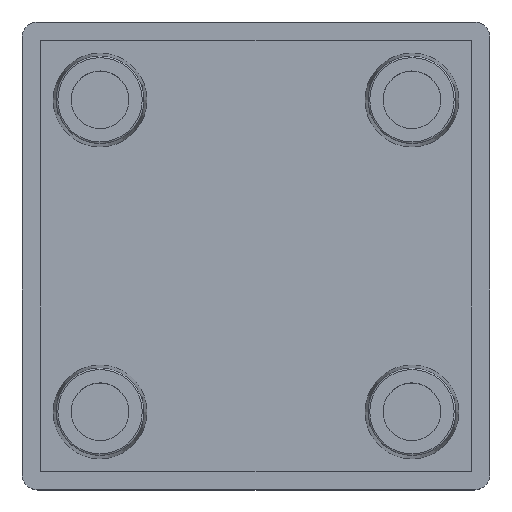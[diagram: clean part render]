
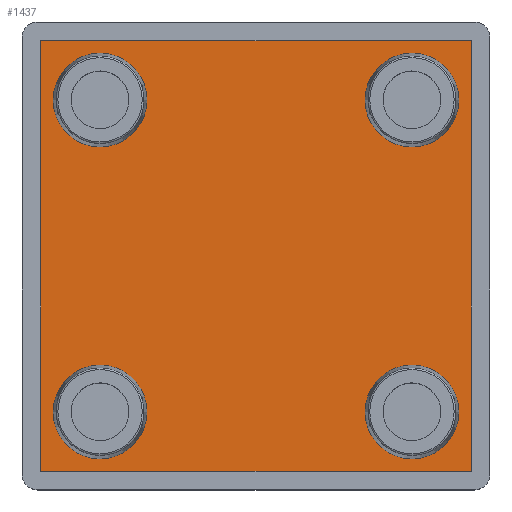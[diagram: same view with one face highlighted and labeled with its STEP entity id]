
A CAD part, top view. The second image highlights one B-rep face of the part: STEP entity #1437.
In plain terms, the highlighted planar face has unit normal (0, 0, 1).
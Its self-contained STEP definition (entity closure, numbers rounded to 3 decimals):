
#15 = EDGE_CURVE ( 'NONE', #525, #266, #763, .T. ) ;
#74 = DIRECTION ( 'NONE',  ( 1., 0., 0. ) ) ;
#77 = CARTESIAN_POINT ( 'NONE',  ( 10., 10., 2. ) ) ;
#87 = DIRECTION ( 'NONE',  ( 0., 0., 1. ) ) ;
#134 = LINE ( 'NONE', #873, #1156 ) ;
#135 = FACE_BOUND ( 'NONE', #1035, .T. ) ;
#136 = EDGE_CURVE ( 'NONE', #1329, #907, #1611, .T. ) ;
#151 = VECTOR ( 'NONE', #1438, 1000. ) ;
#157 = DIRECTION ( 'NONE',  ( 0., 1., 0. ) ) ;
#161 = EDGE_LOOP ( 'NONE', ( #1420, #621 ) ) ;
#175 = VERTEX_POINT ( 'NONE', #287 ) ;
#198 = CARTESIAN_POINT ( 'NONE',  ( -13., 10., 2. ) ) ;
#200 = ORIENTED_EDGE ( 'NONE', *, *, #1183, .T. ) ;
#217 = VECTOR ( 'NONE', #74, 1000. ) ;
#245 = CARTESIAN_POINT ( 'NONE',  ( 10., 10., 2. ) ) ;
#266 = VERTEX_POINT ( 'NONE', #328 ) ;
#267 = ORIENTED_EDGE ( 'NONE', *, *, #1409, .F. ) ;
#287 = CARTESIAN_POINT ( 'NONE',  ( -7., -10., 2. ) ) ;
#289 = CIRCLE ( 'NONE', #1476, 3. ) ;
#307 = AXIS2_PLACEMENT_3D ( 'NONE', #1241, #442, #1379 ) ;
#328 = CARTESIAN_POINT ( 'NONE',  ( 7., 10., 2. ) ) ;
#330 = CIRCLE ( 'NONE', #928, 3. ) ;
#338 = CARTESIAN_POINT ( 'NONE',  ( 10., -10., 2. ) ) ;
#351 = VERTEX_POINT ( 'NONE', #1423 ) ;
#362 = CIRCLE ( 'NONE', #392, 3. ) ;
#365 = CIRCLE ( 'NONE', #1639, 3. ) ;
#368 = ORIENTED_EDGE ( 'NONE', *, *, #824, .F. ) ;
#382 = DIRECTION ( 'NONE',  ( -1., 0., 0. ) ) ;
#392 = AXIS2_PLACEMENT_3D ( 'NONE', #629, #1435, #505 ) ;
#416 = CARTESIAN_POINT ( 'NONE',  ( 10., -10., 2. ) ) ;
#424 = EDGE_CURVE ( 'NONE', #907, #1148, #134, .T. ) ;
#427 = ORIENTED_EDGE ( 'NONE', *, *, #136, .T. ) ;
#440 = FACE_OUTER_BOUND ( 'NONE', #1094, .T. ) ;
#441 = AXIS2_PLACEMENT_3D ( 'NONE', #77, #867, #1675 ) ;
#442 = DIRECTION ( 'NONE',  ( 0., 0., 1. ) ) ;
#465 = CARTESIAN_POINT ( 'NONE',  ( 13.8, -13.8, 2. ) ) ;
#475 = DIRECTION ( 'NONE',  ( -1., 0., 0. ) ) ;
#488 = EDGE_CURVE ( 'NONE', #1149, #175, #362, .T. ) ;
#505 = DIRECTION ( 'NONE',  ( -1., 0., 0. ) ) ;
#509 = CARTESIAN_POINT ( 'NONE',  ( -13.8, -13.8, 2. ) ) ;
#520 = LINE ( 'NONE', #509, #151 ) ;
#525 = VERTEX_POINT ( 'NONE', #1298 ) ;
#547 = DIRECTION ( 'NONE',  ( -1., 0., 0. ) ) ;
#548 = CARTESIAN_POINT ( 'NONE',  ( 13.8, -13.8, 2. ) ) ;
#611 = CARTESIAN_POINT ( 'NONE',  ( -10., 10., 2. ) ) ;
#621 = ORIENTED_EDGE ( 'NONE', *, *, #667, .F. ) ;
#629 = CARTESIAN_POINT ( 'NONE',  ( -10., -10., 2. ) ) ;
#655 = LINE ( 'NONE', #861, #217 ) ;
#659 = AXIS2_PLACEMENT_3D ( 'NONE', #611, #1553, #748 ) ;
#667 = EDGE_CURVE ( 'NONE', #175, #1149, #1478, .T. ) ;
#677 = EDGE_LOOP ( 'NONE', ( #1204, #1422 ) ) ;
#748 = DIRECTION ( 'NONE',  ( -1., 0., 0. ) ) ;
#756 = DIRECTION ( 'NONE',  ( -1., 0., 0. ) ) ;
#762 = CARTESIAN_POINT ( 'NONE',  ( 13.8, 13.8, 2. ) ) ;
#763 = CIRCLE ( 'NONE', #441, 3. ) ;
#783 = EDGE_CURVE ( 'NONE', #1140, #964, #330, .T. ) ;
#787 = VERTEX_POINT ( 'NONE', #198 ) ;
#803 = VERTEX_POINT ( 'NONE', #866 ) ;
#824 = EDGE_CURVE ( 'NONE', #787, #351, #289, .T. ) ;
#861 = CARTESIAN_POINT ( 'NONE',  ( -13.8, -13.8, 2. ) ) ;
#865 = DIRECTION ( 'NONE',  ( -1., 0., 0. ) ) ;
#866 = CARTESIAN_POINT ( 'NONE',  ( -13.8, -13.8, 2. ) ) ;
#867 = DIRECTION ( 'NONE',  ( 0., 0., 1. ) ) ;
#873 = CARTESIAN_POINT ( 'NONE',  ( -13.8, 13.8, 2. ) ) ;
#874 = CARTESIAN_POINT ( 'NONE',  ( -10., 10., 2. ) ) ;
#877 = CARTESIAN_POINT ( 'NONE',  ( -13., -10., 2. ) ) ;
#907 = VERTEX_POINT ( 'NONE', #762 ) ;
#917 = FACE_BOUND ( 'NONE', #161, .T. ) ;
#918 = EDGE_LOOP ( 'NONE', ( #1173, #1013 ) ) ;
#928 = AXIS2_PLACEMENT_3D ( 'NONE', #338, #1265, #475 ) ;
#964 = VERTEX_POINT ( 'NONE', #1238 ) ;
#1007 = DIRECTION ( 'NONE',  ( -1., 0., 0. ) ) ;
#1013 = ORIENTED_EDGE ( 'NONE', *, *, #1646, .F. ) ;
#1035 = EDGE_LOOP ( 'NONE', ( #368, #267 ) ) ;
#1094 = EDGE_LOOP ( 'NONE', ( #427, #1633, #200, #1216 ) ) ;
#1140 = VERTEX_POINT ( 'NONE', #1426 ) ;
#1148 = VERTEX_POINT ( 'NONE', #1692 ) ;
#1149 = VERTEX_POINT ( 'NONE', #877 ) ;
#1156 = VECTOR ( 'NONE', #865, 1000. ) ;
#1161 = FACE_BOUND ( 'NONE', #918, .T. ) ;
#1172 = AXIS2_PLACEMENT_3D ( 'NONE', #416, #1347, #547 ) ;
#1173 = ORIENTED_EDGE ( 'NONE', *, *, #783, .F. ) ;
#1177 = DIRECTION ( 'NONE',  ( 0., 0., 1. ) ) ;
#1183 = EDGE_CURVE ( 'NONE', #1148, #803, #520, .T. ) ;
#1199 = CIRCLE ( 'NONE', #659, 3. ) ;
#1204 = ORIENTED_EDGE ( 'NONE', *, *, #1491, .F. ) ;
#1216 = ORIENTED_EDGE ( 'NONE', *, *, #1381, .T. ) ;
#1238 = CARTESIAN_POINT ( 'NONE',  ( 13., -10., 2. ) ) ;
#1241 = CARTESIAN_POINT ( 'NONE',  ( -10., -10., 2. ) ) ;
#1265 = DIRECTION ( 'NONE',  ( 0., 0., 1. ) ) ;
#1287 = PLANE ( 'NONE',  #1288 ) ;
#1288 = AXIS2_PLACEMENT_3D ( 'NONE', #1428, #1421, #756 ) ;
#1298 = CARTESIAN_POINT ( 'NONE',  ( 13., 10., 2. ) ) ;
#1329 = VERTEX_POINT ( 'NONE', #465 ) ;
#1347 = DIRECTION ( 'NONE',  ( 0., 0., 1. ) ) ;
#1379 = DIRECTION ( 'NONE',  ( -1., 0., 0. ) ) ;
#1381 = EDGE_CURVE ( 'NONE', #803, #1329, #655, .T. ) ;
#1409 = EDGE_CURVE ( 'NONE', #351, #787, #1199, .T. ) ;
#1420 = ORIENTED_EDGE ( 'NONE', *, *, #488, .F. ) ;
#1421 = DIRECTION ( 'NONE',  ( 0., 0., -1. ) ) ;
#1422 = ORIENTED_EDGE ( 'NONE', *, *, #15, .F. ) ;
#1423 = CARTESIAN_POINT ( 'NONE',  ( -7., 10., 2. ) ) ;
#1426 = CARTESIAN_POINT ( 'NONE',  ( 7., -10., 2. ) ) ;
#1428 = CARTESIAN_POINT ( 'NONE',  ( 0., 0., 2. ) ) ;
#1435 = DIRECTION ( 'NONE',  ( 0., 0., 1. ) ) ;
#1437 = ADVANCED_FACE ( 'NONE', ( #1161, #1468, #917, #135, #440 ), #1287, .F. ) ;
#1438 = DIRECTION ( 'NONE',  ( 0., -1., 0. ) ) ;
#1468 = FACE_BOUND ( 'NONE', #677, .T. ) ;
#1476 = AXIS2_PLACEMENT_3D ( 'NONE', #874, #87, #1007 ) ;
#1478 = CIRCLE ( 'NONE', #307, 3. ) ;
#1491 = EDGE_CURVE ( 'NONE', #266, #525, #365, .T. ) ;
#1524 = CIRCLE ( 'NONE', #1172, 3. ) ;
#1553 = DIRECTION ( 'NONE',  ( 0., 0., 1. ) ) ;
#1574 = VECTOR ( 'NONE', #157, 1000. ) ;
#1611 = LINE ( 'NONE', #548, #1574 ) ;
#1633 = ORIENTED_EDGE ( 'NONE', *, *, #424, .T. ) ;
#1639 = AXIS2_PLACEMENT_3D ( 'NONE', #245, #1177, #382 ) ;
#1646 = EDGE_CURVE ( 'NONE', #964, #1140, #1524, .T. ) ;
#1675 = DIRECTION ( 'NONE',  ( -1., 0., 0. ) ) ;
#1692 = CARTESIAN_POINT ( 'NONE',  ( -13.8, 13.8, 2. ) ) ;
